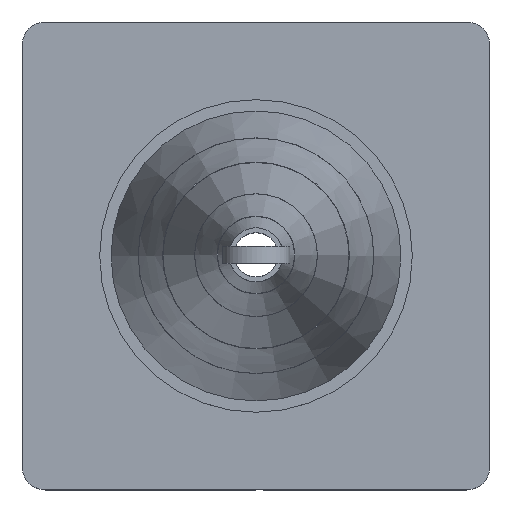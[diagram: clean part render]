
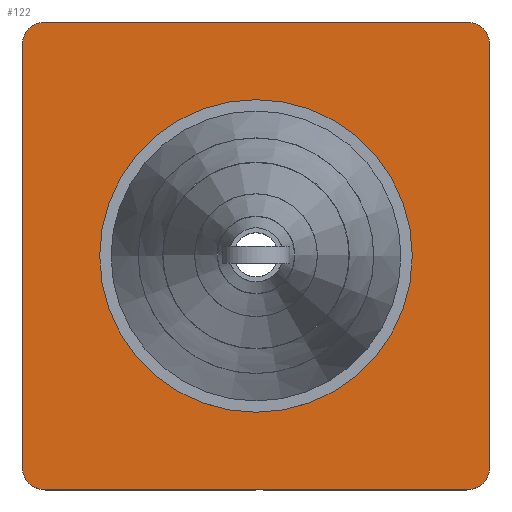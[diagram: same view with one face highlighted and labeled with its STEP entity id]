
A CAD part, top view. The second image highlights one B-rep face of the part: STEP entity #122.
In plain terms, the highlighted planar face has unit normal (0, 0, 1).
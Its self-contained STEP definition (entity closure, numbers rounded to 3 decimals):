
#24 = VERTEX_POINT('',#25);
#25 = CARTESIAN_POINT('',(-218.5,-242.5,45.));
#41 = VERTEX_POINT('',#42);
#42 = CARTESIAN_POINT('',(-242.5,-218.5,45.));
#48 = EDGE_CURVE('',#41,#24,#49,.T.);
#49 = CIRCLE('',#50,24.);
#50 = AXIS2_PLACEMENT_3D('',#51,#52,#53);
#51 = CARTESIAN_POINT('',(-218.5,-218.5,45.));
#52 = DIRECTION('',(0.,0.,1.));
#53 = DIRECTION('',(1.,0.,0.));
#72 = EDGE_CURVE('',#24,#73,#75,.T.);
#73 = VERTEX_POINT('',#74);
#74 = CARTESIAN_POINT('',(218.5,-242.5,45.));
#75 = LINE('',#76,#77);
#76 = CARTESIAN_POINT('',(-218.5,-242.5,45.));
#77 = VECTOR('',#78,1.);
#78 = DIRECTION('',(1.,0.,0.));
#122 = ADVANCED_FACE('',(#123,#176),#187,.T.);
#123 = FACE_BOUND('',#124,.T.);
#124 = EDGE_LOOP('',(#125,#126,#127,#136,#144,#153,#161,#170));
#125 = ORIENTED_EDGE('',*,*,#48,.T.);
#126 = ORIENTED_EDGE('',*,*,#72,.T.);
#127 = ORIENTED_EDGE('',*,*,#128,.T.);
#128 = EDGE_CURVE('',#73,#129,#131,.T.);
#129 = VERTEX_POINT('',#130);
#130 = CARTESIAN_POINT('',(242.5,-218.5,45.));
#131 = CIRCLE('',#132,24.);
#132 = AXIS2_PLACEMENT_3D('',#133,#134,#135);
#133 = CARTESIAN_POINT('',(218.5,-218.5,45.));
#134 = DIRECTION('',(0.,0.,1.));
#135 = DIRECTION('',(1.,0.,0.));
#136 = ORIENTED_EDGE('',*,*,#137,.T.);
#137 = EDGE_CURVE('',#129,#138,#140,.T.);
#138 = VERTEX_POINT('',#139);
#139 = CARTESIAN_POINT('',(242.5,218.5,45.));
#140 = LINE('',#141,#142);
#141 = CARTESIAN_POINT('',(242.5,-218.5,45.));
#142 = VECTOR('',#143,1.);
#143 = DIRECTION('',(0.,1.,0.));
#144 = ORIENTED_EDGE('',*,*,#145,.T.);
#145 = EDGE_CURVE('',#138,#146,#148,.T.);
#146 = VERTEX_POINT('',#147);
#147 = CARTESIAN_POINT('',(218.5,242.5,45.));
#148 = CIRCLE('',#149,24.);
#149 = AXIS2_PLACEMENT_3D('',#150,#151,#152);
#150 = CARTESIAN_POINT('',(218.5,218.5,45.));
#151 = DIRECTION('',(0.,0.,1.));
#152 = DIRECTION('',(1.,0.,0.));
#153 = ORIENTED_EDGE('',*,*,#154,.F.);
#154 = EDGE_CURVE('',#155,#146,#157,.T.);
#155 = VERTEX_POINT('',#156);
#156 = CARTESIAN_POINT('',(-218.5,242.5,45.));
#157 = LINE('',#158,#159);
#158 = CARTESIAN_POINT('',(-218.5,242.5,45.));
#159 = VECTOR('',#160,1.);
#160 = DIRECTION('',(1.,0.,0.));
#161 = ORIENTED_EDGE('',*,*,#162,.T.);
#162 = EDGE_CURVE('',#155,#163,#165,.T.);
#163 = VERTEX_POINT('',#164);
#164 = CARTESIAN_POINT('',(-242.5,218.5,45.));
#165 = CIRCLE('',#166,24.);
#166 = AXIS2_PLACEMENT_3D('',#167,#168,#169);
#167 = CARTESIAN_POINT('',(-218.5,218.5,45.));
#168 = DIRECTION('',(0.,0.,1.));
#169 = DIRECTION('',(1.,0.,0.));
#170 = ORIENTED_EDGE('',*,*,#171,.F.);
#171 = EDGE_CURVE('',#41,#163,#172,.T.);
#172 = LINE('',#173,#174);
#173 = CARTESIAN_POINT('',(-242.5,-218.5,45.));
#174 = VECTOR('',#175,1.);
#175 = DIRECTION('',(0.,1.,0.));
#176 = FACE_BOUND('',#177,.T.);
#177 = EDGE_LOOP('',(#178));
#178 = ORIENTED_EDGE('',*,*,#179,.T.);
#179 = EDGE_CURVE('',#180,#180,#182,.T.);
#180 = VERTEX_POINT('',#181);
#181 = CARTESIAN_POINT('',(162.,0.,45.));
#182 = CIRCLE('',#183,162.);
#183 = AXIS2_PLACEMENT_3D('',#184,#185,#186);
#184 = CARTESIAN_POINT('',(0.,0.,45.));
#185 = DIRECTION('',(0.,0.,-1.));
#186 = DIRECTION('',(1.,0.,0.));
#187 = PLANE('',#188);
#188 = AXIS2_PLACEMENT_3D('',#189,#190,#191);
#189 = CARTESIAN_POINT('',(0.,0.,45.));
#190 = DIRECTION('',(0.,0.,1.));
#191 = DIRECTION('',(1.,0.,0.));
